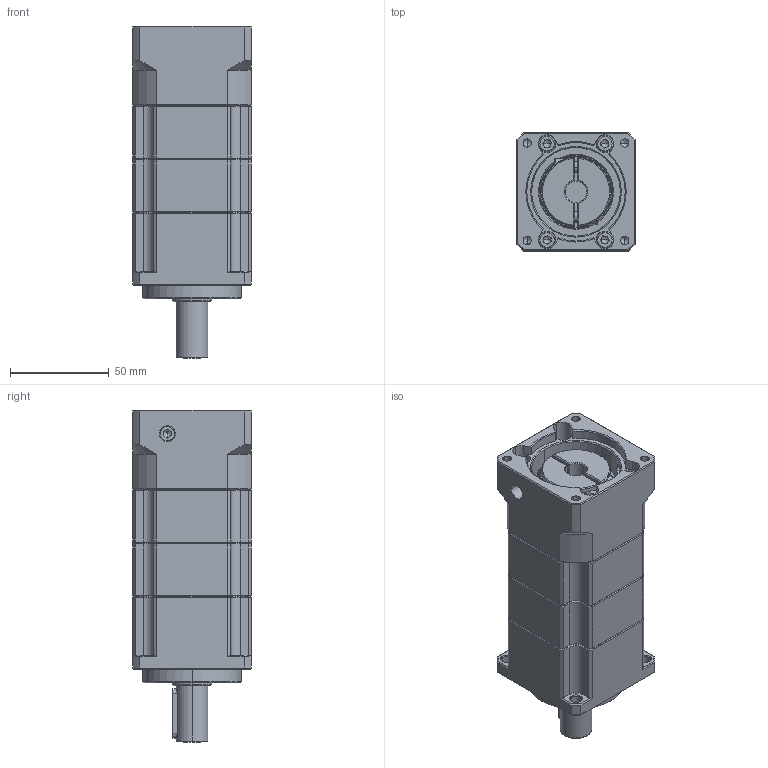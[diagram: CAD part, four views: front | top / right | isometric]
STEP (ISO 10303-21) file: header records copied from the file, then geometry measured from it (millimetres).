
FILE_DESCRIPTION (( 'STEP AP214' ), '1' );
FILE_NAME ('ZPB060-D16-L3-P1-11-50-70-M5.step', '2024-04-23T15:42:58', ( 'Windows 蚚誧' ), ( 'Organization' ), 'SwSTEP 2.0', 'SolidWorks 2016', '' );
FILE_SCHEMA (( 'AUTOMOTIVE_DESIGN' ));
Length unit declared in the file: millimetre
Products named in the file (1): ZPB060-D16-L3-P1-11-50-70-M5
Bounding box: 60 x 60 x 168.5 mm (x, y, z)
Volume: 406771 mm3; surface area: 81248.5 mm2
Topology: 14 solids, 22 shells, 2077 faces, 5765 edges, 3704 vertices
Faces by surface type: plane 1087, bspline 373, cylinder 283, cone 196, torus 92, sphere 46
Entity records: 107901 total; most frequent: CARTESIAN_POINT 35501, ORIENTED_EDGE 11224, DIRECTION 8686, EDGE_CURVE 5612, VERTEX_POINT 3635, VECTOR 3390, LINE 3390, AXIS2_PLACEMENT_3D 2648
